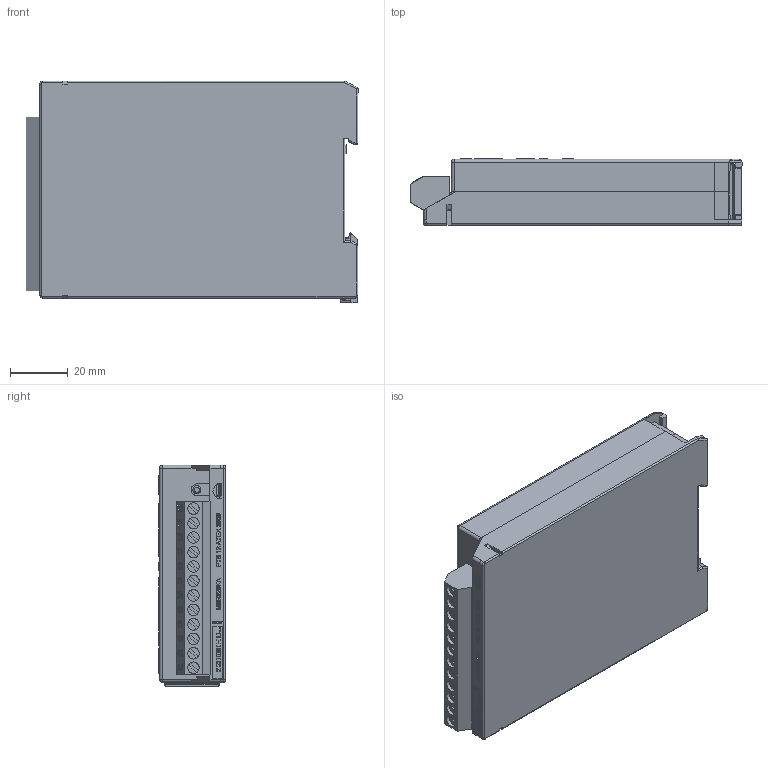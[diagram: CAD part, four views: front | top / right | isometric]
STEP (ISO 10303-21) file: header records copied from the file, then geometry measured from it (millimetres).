
FILE_DESCRIPTION (( 'STEP AP214' ), '1' );
FILE_NAME ('1058 1950_MSR_2U_3D.STEP', '2014-05-26T12:24:47', ( '' ), ( '' ), 'SwSTEP 2.0', 'SolidWorks 2014', '' );
FILE_SCHEMA (( 'AUTOMOTIVE_DESIGN' ));
Length unit declared in the file: millimetre
Products named in the file (10): K-Riegel; 1058 1231 MSR_2U_Klemm_3D; 31147112; 1058 1246_MSR220K_2U_3D; pan head cross recess screw_din_ISO 7045 - M3 x 4 - Z --- 4N; Kopie von K-Leiterpklatte 60 lang^1058 1950_MSR_2U_3D; 1075 192x_MSR-Deckel; 1058 1283 MSR_KA schmal_3D; 1045 1940 K-UT_3D; 1058 1950_MSR_2U_3D
Assembly tree (9 placements, depth 2):
  1058 1950_MSR_2U_3D
    1045 1940 K-UT_3D
    1058 1283 MSR_KA schmal_3D
    1075 192x_MSR-Deckel
    Kopie von K-Leiterpklatte 60 lang^1058 1950_MSR_2U_3D
    pan head cross recess screw_din_ISO 7045 - M3 x 4 - Z --- 4N
    1058 1246_MSR220K_2U_3D
    31147112
    1058 1231 MSR_2U_Klemm_3D
    K-Riegel
Bounding box: 114.78 x 23.04 x 76.65 mm (x, y, z)
Volume: 51467.3 mm3; surface area: 64956 mm2
Topology: 350 solids, 350 shells, 4490 faces, 10993 edges, 7252 vertices
Faces by surface type: plane 3517, bspline 723, cylinder 182, cone 25, sphere 22, torus 21
Full cylindrical faces by diameter (mm): 1 x12, 1.5 x7, 2.8 x3, 3 x12, 3.1 x12, 3.6 x1, 4 x12, 4.2 x1, 5.6 x1, 6 x1, 6.8 x1, 7 x1, 7.2 x1, 9 x1
Entity records: 151678 total; most frequent: CARTESIAN_POINT 44419, ORIENTED_EDGE 21700, DIRECTION 17261, EDGE_CURVE 10850, VECTOR 8921, LINE 8921, VERTEX_POINT 7226, EDGE_LOOP 4880
